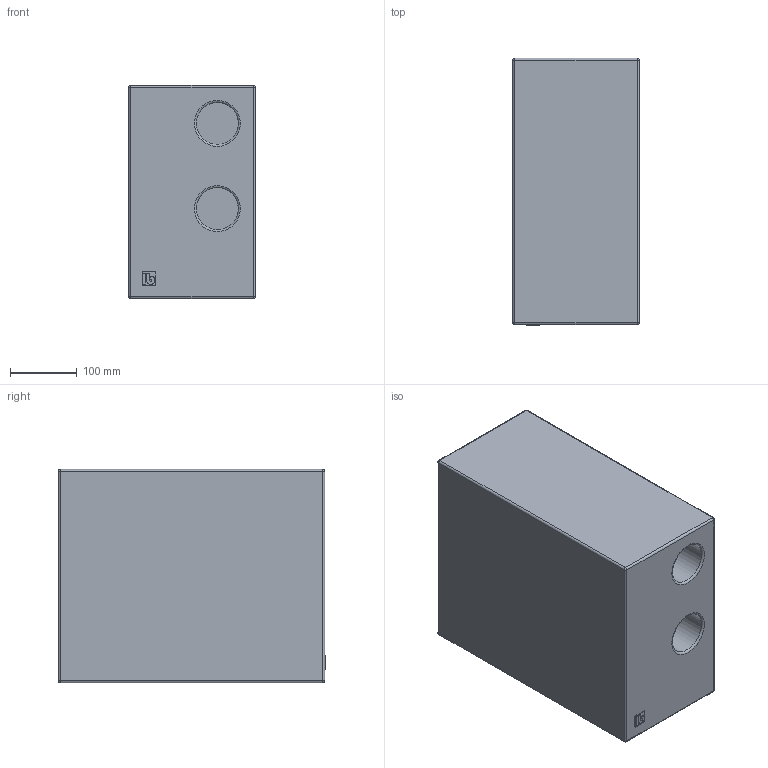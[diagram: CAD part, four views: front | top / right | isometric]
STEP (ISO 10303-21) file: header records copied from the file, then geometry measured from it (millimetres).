
FILE_DESCRIPTION(/* description */ (''),/* implementation_level */ '2;1');
FILE_NAME(/* name */ 'Sub20 wei.stp',/* time_stamp */ '2024-08-21T16:03:07+02:00',/* author */ ('d.streicher'),/* organization */ (''),/* preprocessor_version */ 'ST-DEVELOPER v20',/* originating_system */ 'Autodesk Inventor 2025',/* authorisation */ '');
FILE_SCHEMA (('AUTOMOTIVE_DESIGN { 1 0 10303 214 3 1 1 }'));
Length unit declared in the file: millimetre
Products named in the file (1): Sub40 weiß
Bounding box: 190 x 401.5 x 320 mm (x, y, z)
Volume: 22118830.1 mm3; surface area: 640827.6 mm2
Topology: 1 solids, 1 shells, 67 faces, 143 edges, 86 vertices
Faces by surface type: plane 35, cylinder 22, sphere 8, torus 2
Full cylindrical faces by diameter (mm): 22 x2, 63 x2
Entity records: 1929 total; most frequent: DIRECTION 329, CARTESIAN_POINT 297, ORIENTED_EDGE 286, EDGE_CURVE 143, AXIS2_PLACEMENT_3D 118, LINE 93, VECTOR 93, VERTEX_POINT 86
